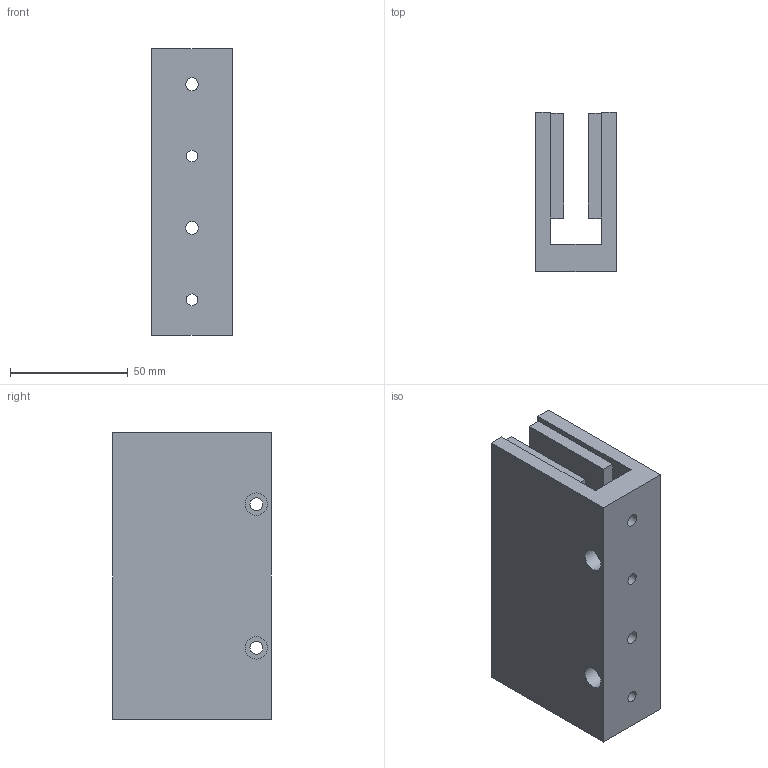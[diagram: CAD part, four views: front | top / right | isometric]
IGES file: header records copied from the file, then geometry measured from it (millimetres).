
Global section: file name: No Iges File Name specified; native system: Autodesk Inventor 2012; preprocessor: AutoDesk Inventor Iges Exporter R2012; author: je17857; date: 20120511.155300; units: inch
Bounding box: 34.29 x 67.31 x 121.67 mm (x, y, z)
Volume: 179435.5 mm3; surface area: 48823.5 mm2
Topology: 1 solids, 1 shells, 68 faces, 158 edges, 106 vertices
Faces by surface type: plane 56, revolution 12
